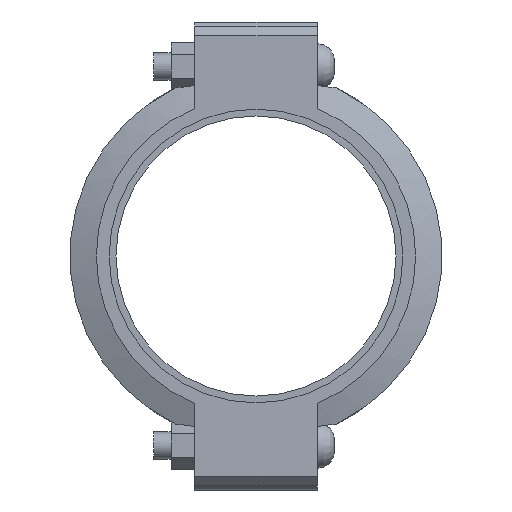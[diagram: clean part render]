
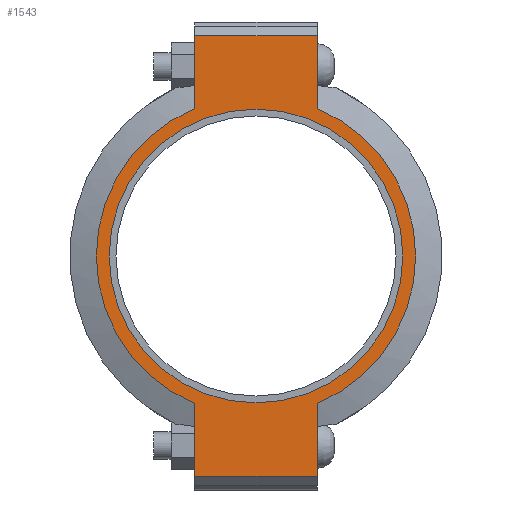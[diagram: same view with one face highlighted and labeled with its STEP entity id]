
A CAD part, left-side view. The second image highlights one B-rep face of the part: STEP entity #1543.
In plain terms, the highlighted planar face has unit normal (-1, 0, 0) as drawn and (0, 0, 1) by its records, which use the part's own axes.
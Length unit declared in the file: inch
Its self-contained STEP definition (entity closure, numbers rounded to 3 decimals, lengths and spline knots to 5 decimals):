
#170=LINE('',#2631,#257);
#181=LINE('',#2682,#268);
#187=LINE('',#2708,#274);
#189=LINE('',#2711,#276);
#190=LINE('',#2716,#277);
#191=LINE('',#2717,#278);
#257=VECTOR('',#2125,0.3937);
#268=VECTOR('',#2156,0.3937);
#274=VECTOR('',#2174,0.3937);
#276=VECTOR('',#2178,0.3937);
#277=VECTOR('',#2183,0.3937);
#278=VECTOR('',#2184,0.3937);
#336=FACE_BOUND('',#495,.T.);
#396=FACE_OUTER_BOUND('',#494,.T.);
#494=EDGE_LOOP('',(#1232,#1233,#1234,#1235,#1236,#1237,#1238,#1239));
#495=EDGE_LOOP('',(#1240));
#600=CIRCLE('',#1788,5.845);
#601=CIRCLE('',#1789,5.845);
#602=CIRCLE('',#1790,5.375);
#709=VERTEX_POINT('',#2628);
#710=VERTEX_POINT('',#2630);
#727=VERTEX_POINT('',#2677);
#728=VERTEX_POINT('',#2681);
#735=VERTEX_POINT('',#2703);
#736=VERTEX_POINT('',#2707);
#737=VERTEX_POINT('',#2713);
#738=VERTEX_POINT('',#2715);
#739=VERTEX_POINT('',#2719);
#879=EDGE_CURVE('',#710,#709,#170,.T.);
#900=EDGE_CURVE('',#728,#727,#181,.T.);
#911=EDGE_CURVE('',#736,#735,#187,.T.);
#913=EDGE_CURVE('',#736,#709,#189,.T.);
#914=EDGE_CURVE('',#735,#737,#600,.T.);
#915=EDGE_CURVE('',#737,#738,#190,.T.);
#916=EDGE_CURVE('',#728,#738,#191,.T.);
#917=EDGE_CURVE('',#727,#710,#601,.T.);
#918=EDGE_CURVE('',#739,#739,#602,.T.);
#1232=ORIENTED_EDGE('',*,*,#913,.F.);
#1233=ORIENTED_EDGE('',*,*,#911,.T.);
#1234=ORIENTED_EDGE('',*,*,#914,.T.);
#1235=ORIENTED_EDGE('',*,*,#915,.T.);
#1236=ORIENTED_EDGE('',*,*,#916,.F.);
#1237=ORIENTED_EDGE('',*,*,#900,.T.);
#1238=ORIENTED_EDGE('',*,*,#917,.T.);
#1239=ORIENTED_EDGE('',*,*,#879,.T.);
#1240=ORIENTED_EDGE('',*,*,#918,.T.);
#1395=PLANE('',#1787);
#1543=ADVANCED_FACE('',(#396,#336),#1395,.T.);
#1787=AXIS2_PLACEMENT_3D('',#2712,#2179,#2180);
#1788=AXIS2_PLACEMENT_3D('',#2714,#2181,#2182);
#1789=AXIS2_PLACEMENT_3D('',#2718,#2185,#2186);
#1790=AXIS2_PLACEMENT_3D('',#2720,#2187,#2188);
#2125=DIRECTION('',(-1.,0.,0.));
#2156=DIRECTION('',(-1.,0.,0.));
#2174=DIRECTION('',(1.,0.,0.));
#2178=DIRECTION('',(0.,1.,0.));
#2179=DIRECTION('center_axis',(0.,0.,1.));
#2180=DIRECTION('ref_axis',(1.,0.,0.));
#2181=DIRECTION('center_axis',(0.,0.,1.));
#2182=DIRECTION('ref_axis',(-1.,0.,0.));
#2183=DIRECTION('',(1.,0.,0.));
#2184=DIRECTION('',(0.,-1.,0.));
#2185=DIRECTION('center_axis',(0.,0.,1.));
#2186=DIRECTION('ref_axis',(-1.,0.,0.));
#2187=DIRECTION('center_axis',(0.,0.,-1.));
#2188=DIRECTION('ref_axis',(-1.,0.,0.));
#2628=CARTESIAN_POINT('',(-8.065,2.25,1.315));
#2630=CARTESIAN_POINT('',(-5.39458,2.25,1.315));
#2631=CARTESIAN_POINT('',(8.565,2.25,1.315));
#2677=CARTESIAN_POINT('',(5.39458,2.25,1.315));
#2681=CARTESIAN_POINT('',(8.065,2.25,1.315));
#2682=CARTESIAN_POINT('',(8.565,2.25,1.315));
#2703=CARTESIAN_POINT('',(-5.39458,-2.25,1.315));
#2707=CARTESIAN_POINT('',(-8.065,-2.25,1.315));
#2708=CARTESIAN_POINT('',(-8.565,-2.25,1.315));
#2711=CARTESIAN_POINT('',(-8.065,1.125,1.315));
#2712=CARTESIAN_POINT('Origin',(0.,0.,
1.315));
#2713=CARTESIAN_POINT('',(5.39458,-2.25,1.315));
#2714=CARTESIAN_POINT('Origin',(0.,0.,1.315));
#2715=CARTESIAN_POINT('',(8.065,-2.25,1.315));
#2716=CARTESIAN_POINT('',(-8.565,-2.25,1.315));
#2717=CARTESIAN_POINT('',(8.065,-1.125,1.315));
#2718=CARTESIAN_POINT('Origin',(0.,0.,1.315));
#2719=CARTESIAN_POINT('',(5.375,0.,1.315));
#2720=CARTESIAN_POINT('Origin',(0.,0.,1.315));
